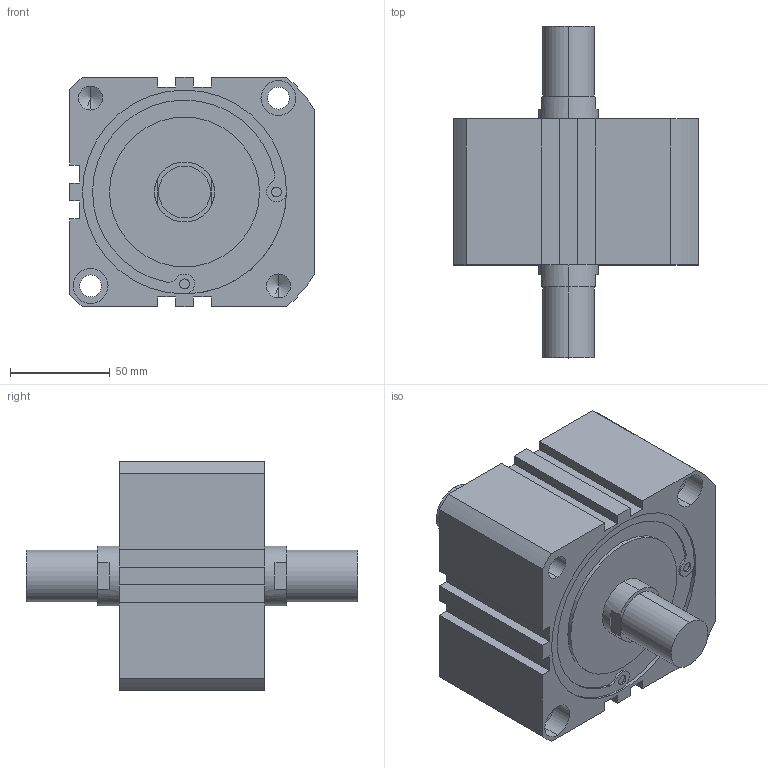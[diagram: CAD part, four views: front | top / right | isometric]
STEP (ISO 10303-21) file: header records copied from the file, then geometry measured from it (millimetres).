
FILE_DESCRIPTION (( 'STEP AP203' ), '1' );
FILE_NAME ('XC#M7-100-10.STEP', '2016-05-23T09:05:42', ( '' ), ( '' ), 'SwSTEP 2.0', 'SolidWorks 2014', '' );
FILE_SCHEMA (( 'CONFIG_CONTROL_DESIGN' ));
Length unit declared in the file: millimetre
Products named in the file (1): XC#M7-100-10
Bounding box: 122.5 x 166 x 115 mm (x, y, z)
Volume: 989715 mm3; surface area: 86528.4 mm2
Topology: 1 solids, 1 shells, 140 faces, 346 edges, 220 vertices
Faces by surface type: cylinder 66, plane 58, cone 16
Entity records: 4189 total; most frequent: DIRECTION 766, CARTESIAN_POINT 695, ORIENTED_EDGE 668, EDGE_CURVE 334, AXIS2_PLACEMENT_3D 291, VERTEX_POINT 220, VECTOR 184, LINE 184
